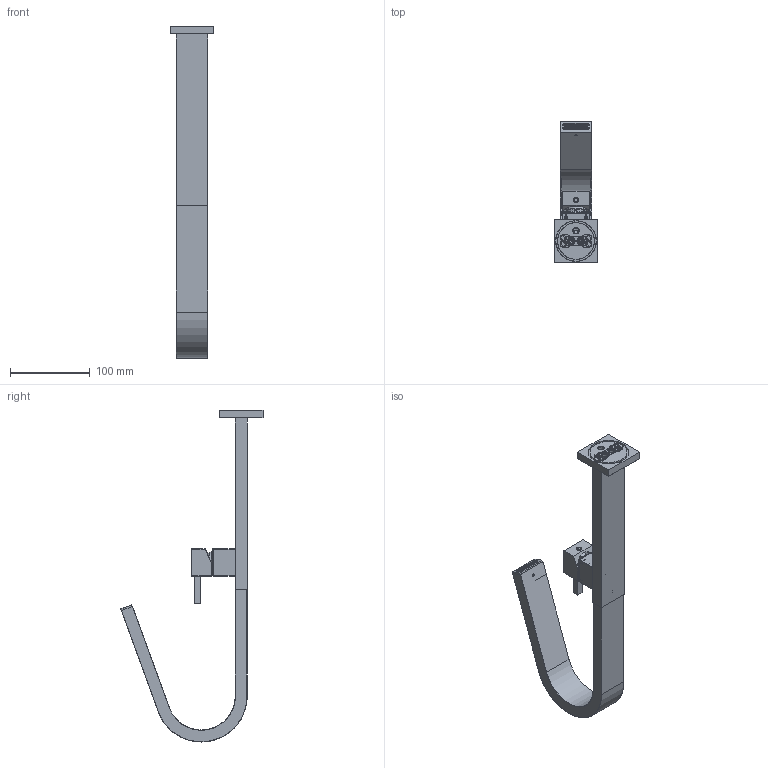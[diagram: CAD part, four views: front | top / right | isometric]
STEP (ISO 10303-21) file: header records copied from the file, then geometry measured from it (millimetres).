
FILE_DESCRIPTION (( 'STEP AP203' ), '1' );
FILE_NAME ('H4U3.STEP', '2016-10-20T07:37:46', ( '' ), ( '' ), 'SwSTEP 2.0', 'SolidWorks 2014', '' );
FILE_SCHEMA (( 'CONFIG_CONTROL_DESIGN' ));
Length unit declared in the file: millimetre
Products named in the file (26): EU008_01; SPINA ELASTICA Ø3x8; EU0104_2; EU0040_3; OR92ACS; EU0013_00; TAPPHITO01; EU0067_00; EU0110_1; H4U3; EU0103_0; EU0107_3; 02328000002; VITE TCEI M4x16; GRANO M5x6; EU0120_0; EU0116_3; EU0119_2; EU004_00; EU0115_0; EU0109_0; GRANO M3 X 6; CARTNUB001; OR765178ACS; EU0117_0; EU0205_0
Assembly tree (37 placements, depth 4):
  H4U3
    SPINA ELASTICA Ø3x8  x2
    EU008_01
      EU0116_3
      EU0067_00
        EU0107_3
        02328000002
        EU0040_3  x2
      GRANO M3 X 6
    GRANO M5x6
    TAPPHITO01
    EU0205_0
    OR765178ACS
    OR92ACS
    EU0013_00
      EU0117_0
      EU0115_0
      EU0103_0
      VITE TCEI M4x16  x8
      EU0109_0
      CARTNUB001
      EU0120_0
      EU0119_2
      EU004_00
        GRANO M5x6  x2
        EU0104_2
        EU0110_1
        TAPPHITO01
Bounding box: 55 x 178.3 x 415.9 mm (x, y, z)
Volume: 278012 mm3; surface area: 186487.5 mm2
Topology: 36 solids, 36 shells, 2347 faces, 6142 edges, 3860 vertices
Faces by surface type: plane 979, cylinder 867, cone 207, torus 200, bspline 64, sphere 30
Entity records: 71487 total; most frequent: CARTESIAN_POINT 14748, DIRECTION 11325, ORIENTED_EDGE 11058, EDGE_CURVE 5529, AXIS2_PLACEMENT_3D 4109, VERTEX_POINT 3514, VECTOR 3107, LINE 3107
